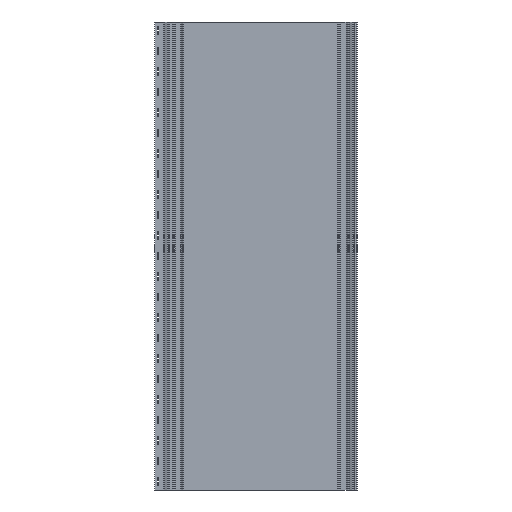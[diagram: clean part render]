
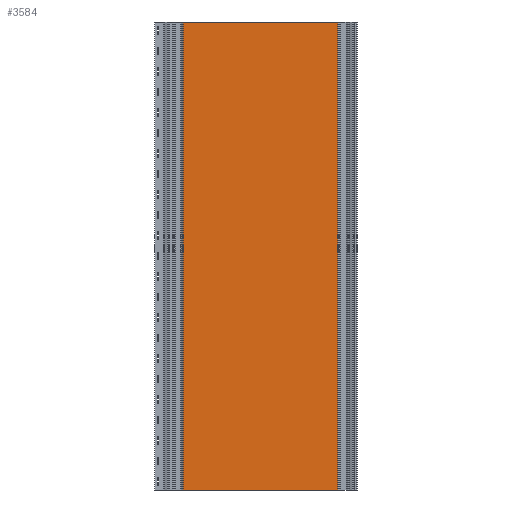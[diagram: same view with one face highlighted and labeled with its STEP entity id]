
A CAD part, front view. The second image highlights one B-rep face of the part: STEP entity #3584.
In plain terms, the highlighted planar face has unit normal (0, -1, 0).
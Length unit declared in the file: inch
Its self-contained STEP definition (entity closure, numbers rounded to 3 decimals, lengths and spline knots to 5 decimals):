
#442=FACE_OUTER_BOUND('',#620,.T.);
#620=EDGE_LOOP('',(#2805,#2806,#2807,#2808));
#968=LINE('',#5808,#1324);
#969=LINE('',#5811,#1325);
#970=LINE('',#5813,#1326);
#971=LINE('',#5814,#1327);
#1324=VECTOR('',#4748,0.3937);
#1325=VECTOR('',#4751,0.3937);
#1326=VECTOR('',#4752,0.3937);
#1327=VECTOR('',#4753,0.3937);
#1679=VERTEX_POINT('',#5804);
#1680=VERTEX_POINT('',#5806);
#1681=VERTEX_POINT('',#5810);
#1682=VERTEX_POINT('',#5812);
#2154=EDGE_CURVE('',#1679,#1680,#968,.T.);
#2155=EDGE_CURVE('',#1681,#1679,#969,.T.);
#2156=EDGE_CURVE('',#1682,#1680,#970,.T.);
#2157=EDGE_CURVE('',#1681,#1682,#971,.T.);
#2805=ORIENTED_EDGE('',*,*,#2155,.T.);
#2806=ORIENTED_EDGE('',*,*,#2154,.T.);
#2807=ORIENTED_EDGE('',*,*,#2156,.F.);
#2808=ORIENTED_EDGE('',*,*,#2157,.F.);
#3431=PLANE('',#3904);
#3584=ADVANCED_FACE('',(#442),#3431,.T.);
#3904=AXIS2_PLACEMENT_3D('',#5809,#4749,#4750);
#4748=DIRECTION('',(0.,0.,1.));
#4749=DIRECTION('center_axis',(0.,-1.,0.));
#4750=DIRECTION('ref_axis',(1.,0.,0.));
#4751=DIRECTION('',(1.,0.,0.));
#4752=DIRECTION('',(1.,0.,0.));
#4753=DIRECTION('',(0.,0.,1.));
#5804=CARTESIAN_POINT('',(19.52671,0.49452,0.));
#5806=CARTESIAN_POINT('',(19.52671,0.49452,48.5));
#5808=CARTESIAN_POINT('',(19.52671,0.49452,0.));
#5809=CARTESIAN_POINT('Origin',(3.50399,0.49452,0.));
#5810=CARTESIAN_POINT('',(3.50399,0.49452,0.));
#5811=CARTESIAN_POINT('',(3.50399,0.49452,0.));
#5812=CARTESIAN_POINT('',(3.50399,0.49452,48.5));
#5813=CARTESIAN_POINT('',(3.50399,0.49452,48.5));
#5814=CARTESIAN_POINT('',(3.50399,0.49452,0.));
